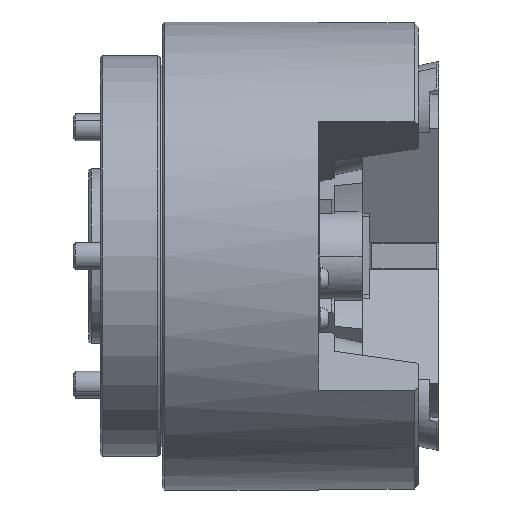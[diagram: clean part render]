
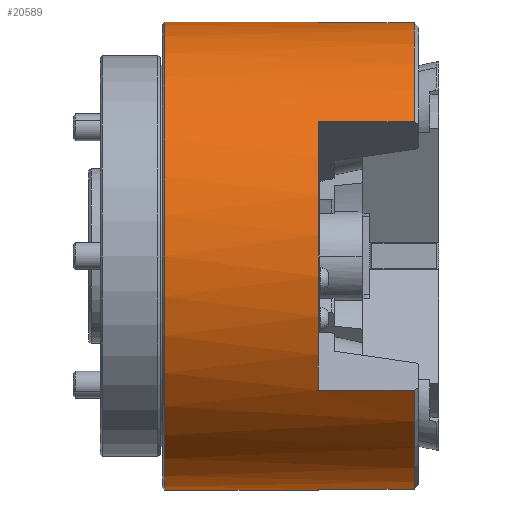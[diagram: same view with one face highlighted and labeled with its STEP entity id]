
A CAD part, front view. The second image highlights one B-rep face of the part: STEP entity #20589.
In plain terms, the highlighted cylindrical face has radius 105 mm (diameter 210 mm), a partial arc.
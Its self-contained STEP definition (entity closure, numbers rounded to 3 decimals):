
#5 = VECTOR ( 'NONE', #29004, 1000. ) ;
#512 = DIRECTION ( 'NONE',  ( 0., 0., -1. ) ) ;
#826 = ORIENTED_EDGE ( 'NONE', *, *, #5484, .F. ) ;
#846 = CARTESIAN_POINT ( 'NONE',  ( 108., -86.011, 60.226 ) ) ;
#1486 = CARTESIAN_POINT ( 'NONE',  ( 65., -9.151, -104.6 ) ) ;
#1659 = CARTESIAN_POINT ( 'NONE',  ( 65., 0., 0. ) ) ;
#3091 = LINE ( 'NONE', #19872, #18302 ) ;
#3368 = DIRECTION ( 'NONE',  ( 1., 0., 0. ) ) ;
#3732 = DIRECTION ( 'NONE',  ( 1., 0., 0. ) ) ;
#3993 = CARTESIAN_POINT ( 'NONE',  ( -4., 0., 0. ) ) ;
#4353 = DIRECTION ( 'NONE',  ( 0., -0.866, 0.5 ) ) ;
#4819 = CARTESIAN_POINT ( 'NONE',  ( 108., -9.151, -104.6 ) ) ;
#4930 = CARTESIAN_POINT ( 'NONE',  ( 65., 0., 0. ) ) ;
#5093 = CARTESIAN_POINT ( 'NONE',  ( 65., -86.011, 60.226 ) ) ;
#5372 = AXIS2_PLACEMENT_3D ( 'NONE', #32778, #16663, #512 ) ;
#5484 = EDGE_CURVE ( 'NONE', #18559, #21145, #8215, .T. ) ;
#5546 = CARTESIAN_POINT ( 'NONE',  ( 65., -9.151, -104.6 ) ) ;
#6562 = LINE ( 'NONE', #29631, #12901 ) ;
#6695 = DIRECTION ( 'NONE',  ( 0., 0., -1. ) ) ;
#6932 = ORIENTED_EDGE ( 'NONE', *, *, #20366, .F. ) ;
#6951 = ORIENTED_EDGE ( 'NONE', *, *, #13554, .T. ) ;
#7006 = VECTOR ( 'NONE', #22492, 1000. ) ;
#7008 = AXIS2_PLACEMENT_3D ( 'NONE', #7223, #9940, #31263 ) ;
#7223 = CARTESIAN_POINT ( 'NONE',  ( 63.843, 0., 0. ) ) ;
#7248 = VERTEX_POINT ( 'NONE', #28872 ) ;
#7636 = DIRECTION ( 'NONE',  ( 0., 0., -1. ) ) ;
#8007 = AXIS2_PLACEMENT_3D ( 'NONE', #28229, #12035, #30915 ) ;
#8215 = CIRCLE ( 'NONE', #31799, 105. ) ;
#8464 = ORIENTED_EDGE ( 'NONE', *, *, #21924, .T. ) ;
#8703 = VERTEX_POINT ( 'NONE', #25944 ) ;
#8781 = ORIENTED_EDGE ( 'NONE', *, *, #24521, .F. ) ;
#9467 = ORIENTED_EDGE ( 'NONE', *, *, #16083, .F. ) ;
#9940 = DIRECTION ( 'NONE',  ( 1., 0., 0. ) ) ;
#10779 = VERTEX_POINT ( 'NONE', #19429 ) ;
#11222 = LINE ( 'NONE', #5546, #24767 ) ;
#11815 = VECTOR ( 'NONE', #29387, 1000. ) ;
#12035 = DIRECTION ( 'NONE',  ( 1., 0., 0. ) ) ;
#12128 = EDGE_CURVE ( 'NONE', #31664, #28126, #29877, .T. ) ;
#12470 = CARTESIAN_POINT ( 'NONE',  ( 65., -86.011, -60.226 ) ) ;
#12901 = VECTOR ( 'NONE', #13488, 1000. ) ;
#12946 = AXIS2_PLACEMENT_3D ( 'NONE', #3993, #22886, #6695 ) ;
#13488 = DIRECTION ( 'NONE',  ( 1., 0., 0. ) ) ;
#13554 = EDGE_CURVE ( 'NONE', #30705, #18888, #11222, .T. ) ;
#14284 = ORIENTED_EDGE ( 'NONE', *, *, #32639, .T. ) ;
#14822 = ORIENTED_EDGE ( 'NONE', *, *, #22254, .F. ) ;
#14912 = AXIS2_PLACEMENT_3D ( 'NONE', #19521, #3368, #22232 ) ;
#15377 = AXIS2_PLACEMENT_3D ( 'NONE', #1659, #20508, #4353 ) ;
#15511 = CIRCLE ( 'NONE', #15377, 105. ) ;
#16083 = EDGE_CURVE ( 'NONE', #7248, #31421, #3091, .T. ) ;
#16498 = EDGE_CURVE ( 'NONE', #31421, #32845, #17843, .T. ) ;
#16663 = DIRECTION ( 'NONE',  ( 1., 0., 0. ) ) ;
#16951 = CARTESIAN_POINT ( 'NONE',  ( 108., -86.011, -60.226 ) ) ;
#17843 = CIRCLE ( 'NONE', #5372, 105. ) ;
#18160 = CARTESIAN_POINT ( 'NONE',  ( 63.843, 0., 105. ) ) ;
#18302 = VECTOR ( 'NONE', #3732, 1000. ) ;
#18559 = VERTEX_POINT ( 'NONE', #27618 ) ;
#18569 = CARTESIAN_POINT ( 'NONE',  ( -4., 0., -105. ) ) ;
#18888 = VERTEX_POINT ( 'NONE', #4819 ) ;
#18916 = CARTESIAN_POINT ( 'NONE',  ( 108., -9.151, 104.6 ) ) ;
#19034 = LINE ( 'NONE', #5093, #11815 ) ;
#19429 = CARTESIAN_POINT ( 'NONE',  ( 65., 0., 105. ) ) ;
#19521 = CARTESIAN_POINT ( 'NONE',  ( 108., 0., 0. ) ) ;
#19872 = CARTESIAN_POINT ( 'NONE',  ( 65., -9.151, 104.6 ) ) ;
#20366 = EDGE_CURVE ( 'NONE', #27432, #18888, #22747, .T. ) ;
#20508 = DIRECTION ( 'NONE',  ( 1., 0., 0. ) ) ;
#20589 = ADVANCED_FACE ( 'NONE', ( #32806 ), #23999, .T. ) ;
#21079 = EDGE_CURVE ( 'NONE', #10779, #7248, #15511, .T. ) ;
#21145 = VERTEX_POINT ( 'NONE', #12470 ) ;
#21707 = DIRECTION ( 'NONE',  ( 1., 0., 0. ) ) ;
#21854 = ORIENTED_EDGE ( 'NONE', *, *, #25247, .F. ) ;
#21924 = EDGE_CURVE ( 'NONE', #28126, #8703, #27704, .T. ) ;
#22133 = ORIENTED_EDGE ( 'NONE', *, *, #16498, .F. ) ;
#22232 = DIRECTION ( 'NONE',  ( 0., 0., -1. ) ) ;
#22254 = EDGE_CURVE ( 'NONE', #21145, #27432, #6562, .T. ) ;
#22492 = DIRECTION ( 'NONE',  ( 1., 0., 0. ) ) ;
#22747 = CIRCLE ( 'NONE', #14912, 105. ) ;
#22886 = DIRECTION ( 'NONE',  ( 1., 0., 0. ) ) ;
#23819 = DIRECTION ( 'NONE',  ( 1., 0., 0. ) ) ;
#23999 = CYLINDRICAL_SURFACE ( 'NONE', #7008, 105. ) ;
#24521 = EDGE_CURVE ( 'NONE', #31664, #10779, #28649, .T. ) ;
#24767 = VECTOR ( 'NONE', #21707, 1000. ) ;
#25247 = EDGE_CURVE ( 'NONE', #30705, #8703, #30709, .T. ) ;
#25763 = ORIENTED_EDGE ( 'NONE', *, *, #12128, .T. ) ;
#25944 = CARTESIAN_POINT ( 'NONE',  ( 65., 0., -105. ) ) ;
#27432 = VERTEX_POINT ( 'NONE', #16951 ) ;
#27618 = CARTESIAN_POINT ( 'NONE',  ( 65., -86.011, 60.226 ) ) ;
#27704 = LINE ( 'NONE', #30479, #7006 ) ;
#28126 = VERTEX_POINT ( 'NONE', #18569 ) ;
#28229 = CARTESIAN_POINT ( 'NONE',  ( 65., 0., 0. ) ) ;
#28649 = LINE ( 'NONE', #18160, #5 ) ;
#28872 = CARTESIAN_POINT ( 'NONE',  ( 65., -9.151, 104.6 ) ) ;
#29004 = DIRECTION ( 'NONE',  ( 1., 0., 0. ) ) ;
#29387 = DIRECTION ( 'NONE',  ( 1., 0., 0. ) ) ;
#29631 = CARTESIAN_POINT ( 'NONE',  ( 65., -86.011, -60.226 ) ) ;
#29877 = CIRCLE ( 'NONE', #12946, 105. ) ;
#30280 = ORIENTED_EDGE ( 'NONE', *, *, #21079, .F. ) ;
#30479 = CARTESIAN_POINT ( 'NONE',  ( 63.843, 0., -105. ) ) ;
#30705 = VERTEX_POINT ( 'NONE', #1486 ) ;
#30709 = CIRCLE ( 'NONE', #8007, 105. ) ;
#30915 = DIRECTION ( 'NONE',  ( 0., 0.866, 0.5 ) ) ;
#31263 = DIRECTION ( 'NONE',  ( 0., 0., -1. ) ) ;
#31421 = VERTEX_POINT ( 'NONE', #18916 ) ;
#31664 = VERTEX_POINT ( 'NONE', #33680 ) ;
#31799 = AXIS2_PLACEMENT_3D ( 'NONE', #4930, #23819, #7636 ) ;
#32075 = EDGE_LOOP ( 'NONE', ( #8781, #25763, #8464, #21854, #6951, #6932, #14822, #826, #14284, #22133, #9467, #30280 ) ) ;
#32639 = EDGE_CURVE ( 'NONE', #18559, #32845, #19034, .T. ) ;
#32778 = CARTESIAN_POINT ( 'NONE',  ( 108., 0., 0. ) ) ;
#32806 = FACE_OUTER_BOUND ( 'NONE', #32075, .T. ) ;
#32845 = VERTEX_POINT ( 'NONE', #846 ) ;
#33680 = CARTESIAN_POINT ( 'NONE',  ( -4., 0., 105. ) ) ;
